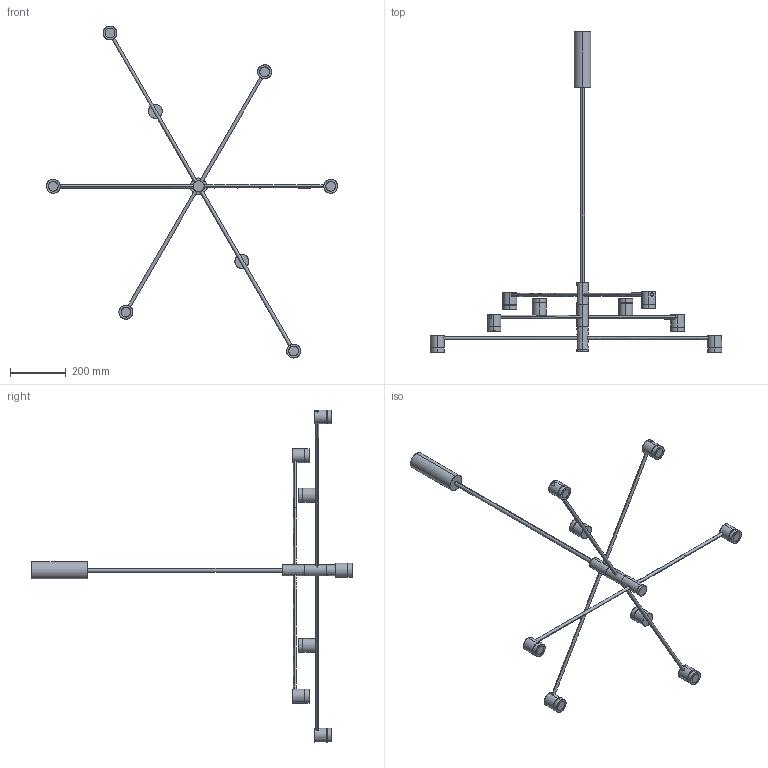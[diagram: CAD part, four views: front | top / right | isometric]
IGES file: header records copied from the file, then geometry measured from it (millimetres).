
Start section: SolidWorks IGES file using analytic representation for surfaces
Global section: file name: C:\Users\adrian\Desktop\AROA\TEA C1337_8\2D-3D TEA_C1337_8\TEA_C1337_8.IGS; native system: SolidWorks 2023; preprocessor: SolidWorks 2023; author: adrian; date: 260206.092512; units: millimetre
Bounding box: 1047 x 1151.25 x 1192.77 mm (x, y, z)
Surface area: 424042.7 mm2 (no closed solid volume)
Topology: 0 solids, 0 shells, 167 faces, 5616 edges, 5616 vertices
Faces by surface type: revolution 86, bspline 81
